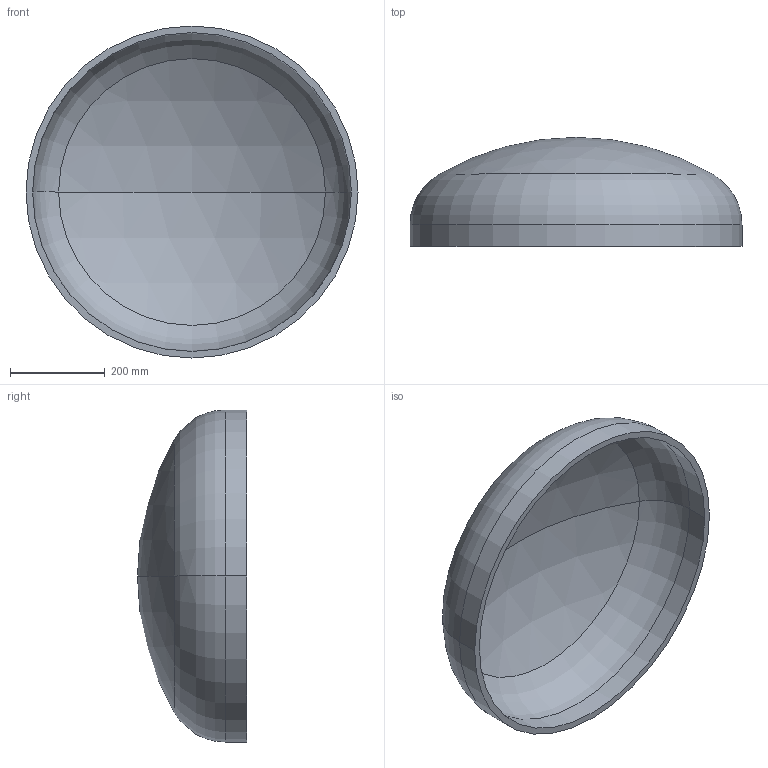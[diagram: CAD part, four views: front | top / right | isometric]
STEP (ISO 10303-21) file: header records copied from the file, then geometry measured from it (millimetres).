
FILE_DESCRIPTION (( 'STEP AP203' ), '1' );
FILE_NAME ('DIN 28013 Korbbogenform_-_Boden DIN 28013 - 700 x 45 - I - s=14.step', '2016-07-01T08:04:32', ( '' ), ( '' ), 'SwSTEP 2.0', 'SolidWorks 2013', '' );
FILE_SCHEMA (( 'CONFIG_CONTROL_DESIGN' ));
Length unit declared in the file: millimetre
Products named in the file (1): DIN 28013 Korbbogenform_-_Boden DIN 28013 - 700 x 45 - I - s=14
Bounding box: 700 x 229.87 x 700 mm (x, y, z)
Volume: 8655351.1 mm3; surface area: 1267060.7 mm2
Topology: 1 solids, 1 shells, 13 faces, 24 edges, 14 vertices
Faces by surface type: torus 4, cylinder 4, sphere 4, plane 1
Entity records: 407 total; most frequent: DIRECTION 72, CARTESIAN_POINT 52, ORIENTED_EDGE 48, AXIS2_PLACEMENT_3D 34, EDGE_CURVE 24, CIRCLE 20, EDGE_LOOP 14, VERTEX_POINT 14
